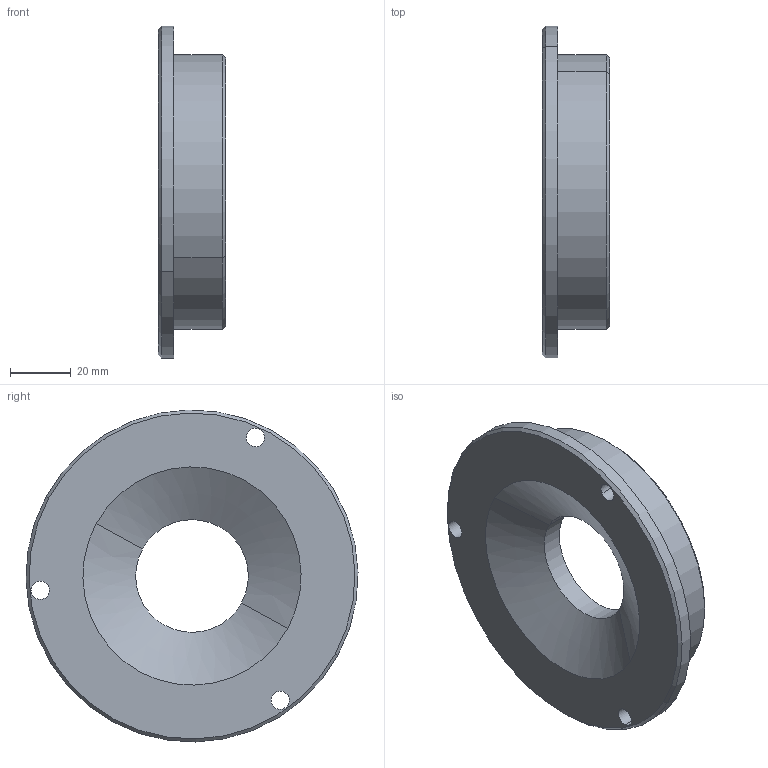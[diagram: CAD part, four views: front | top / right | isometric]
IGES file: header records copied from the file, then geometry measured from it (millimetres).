
Start section: START RECORD GO HERE.
Global section: file name: COUVERCLE.igs; native system: IBM CATIA IGES - CATIA Version 5 Release 18 ; preprocessor: CATIA Version 5 Release 18 ; author: Propriétaire; organization: FUJITSU-79916BB; date: 20090111.190835; units: millimetre
Bounding box: 22 x 108.97 x 108.97 mm (x, y, z)
Surface area: 26344.7 mm2 (no closed solid volume)
Topology: 0 solids, 0 shells, 39 faces, 180 edges, 177 vertices
Faces by surface type: revolution 32, plane 7
